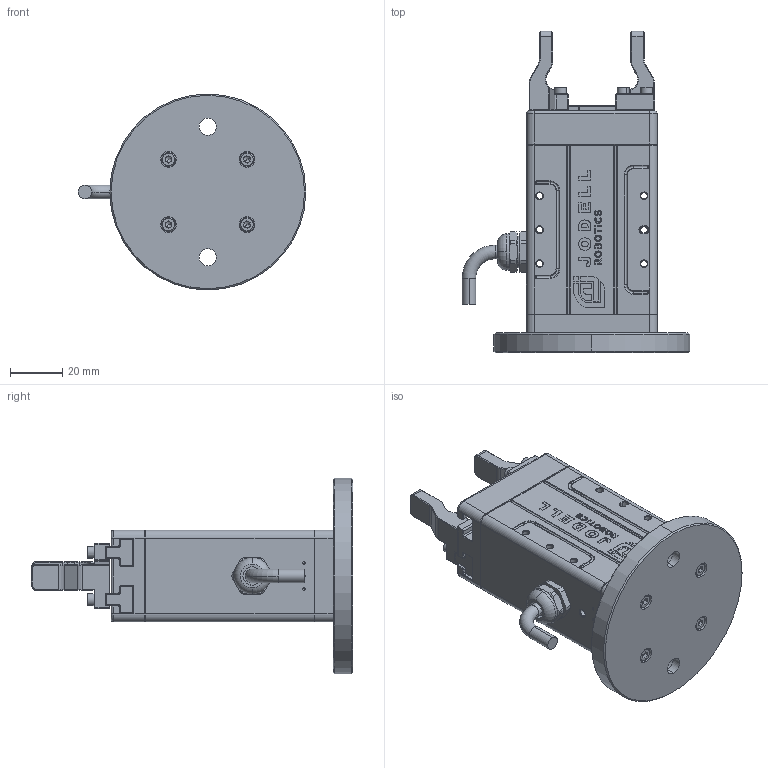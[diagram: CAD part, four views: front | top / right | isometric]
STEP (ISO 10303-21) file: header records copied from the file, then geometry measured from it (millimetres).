
FILE_DESCRIPTION (( 'STEP AP203' ), '1' );
FILE_NAME ('生态套件-星火计划-夹爪模块.STEP', '2024-11-08T08:45:00', ( '' ), ( '' ), 'SwSTEP 2.0', 'SolidWorks 2018', '' );
FILE_SCHEMA (( 'CONFIG_CONTROL_DESIGN' ));
Length unit declared in the file: millimetre
Products named in the file (1): 生态套件-星火计划-夹爪模块
Bounding box: 87.1 x 123 x 75 mm (x, y, z)
Surface area: 40546.3 mm2 (no closed solid volume)
Topology: 0 solids, 24 shells, 922 faces, 2851 edges, 1885 vertices
Faces by surface type: plane 428, cylinder 197, cone 144, bspline 103, torus 42, sphere 8
Entity records: 33044 total; most frequent: CARTESIAN_POINT 8627, DIRECTION 4812, ORIENTED_EDGE 4714, EDGE_CURVE 2843, VERTEX_POINT 1885, LINE 1744, VECTOR 1744, AXIS2_PLACEMENT_3D 1534
